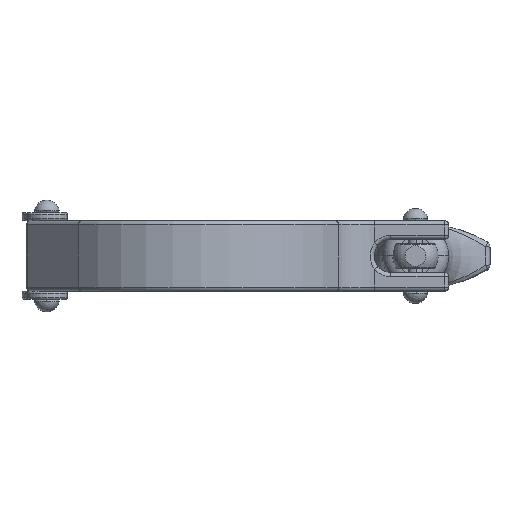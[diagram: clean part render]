
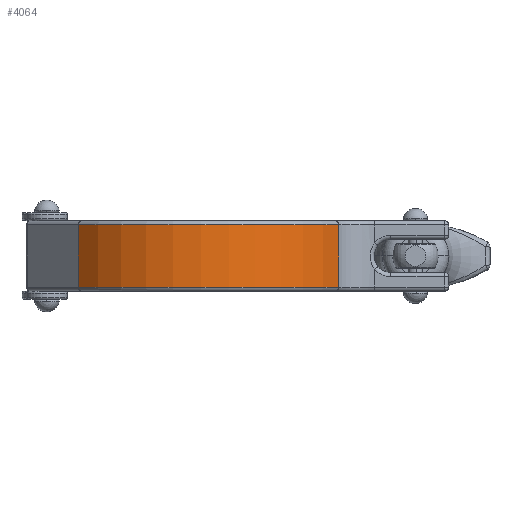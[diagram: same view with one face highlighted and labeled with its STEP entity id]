
A CAD part, front view. The second image highlights one B-rep face of the part: STEP entity #4064.
In plain terms, the highlighted cylindrical face has radius 38.5 mm (diameter 77 mm), a partial arc.
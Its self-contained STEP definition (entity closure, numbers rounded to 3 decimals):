
#302 = CIRCLE ( 'NONE', #6578, 38.5 ) ;
#452 = ORIENTED_EDGE ( 'NONE', *, *, #4575, .T. ) ;
#585 = ORIENTED_EDGE ( 'NONE', *, *, #1857, .F. ) ;
#1857 = EDGE_CURVE ( 'NONE', #4518, #3589, #2033, .T. ) ;
#2033 = LINE ( 'NONE', #3226, #2353 ) ;
#2124 = DIRECTION ( 'NONE',  ( 1., 0., 0. ) ) ;
#2353 = VECTOR ( 'NONE', #9262, 1000. ) ;
#2360 = CARTESIAN_POINT ( 'NONE',  ( -29.384, 17.624, -7.5 ) ) ;
#2423 = DIRECTION ( 'NONE',  ( 0., 0., -1. ) ) ;
#2580 = AXIS2_PLACEMENT_3D ( 'NONE', #3128, #5180, #2124 ) ;
#3128 = CARTESIAN_POINT ( 'NONE',  ( 0., 42.5, 7.5 ) ) ;
#3226 = CARTESIAN_POINT ( 'NONE',  ( 33.456, 23.448, 8.5 ) ) ;
#3355 = LINE ( 'NONE', #7310, #4755 ) ;
#3426 = CARTESIAN_POINT ( 'NONE',  ( 33.456, 23.448, -7.5 ) ) ;
#3589 = VERTEX_POINT ( 'NONE', #3426 ) ;
#4064 = ADVANCED_FACE ( 'NONE', ( #4686 ), #12303, .T. ) ;
#4492 = VERTEX_POINT ( 'NONE', #5196 ) ;
#4518 = VERTEX_POINT ( 'NONE', #8364 ) ;
#4575 = EDGE_CURVE ( 'NONE', #10218, #3589, #302, .T. ) ;
#4686 = FACE_OUTER_BOUND ( 'NONE', #9374, .T. ) ;
#4755 = VECTOR ( 'NONE', #2423, 1000. ) ;
#5180 = DIRECTION ( 'NONE',  ( 0., 0., -1. ) ) ;
#5196 = CARTESIAN_POINT ( 'NONE',  ( -29.384, 17.624, 7.5 ) ) ;
#5366 = DIRECTION ( 'NONE',  ( 1., 0., 0. ) ) ;
#6578 = AXIS2_PLACEMENT_3D ( 'NONE', #10310, #11312, #5366 ) ;
#6858 = EDGE_CURVE ( 'NONE', #4518, #4492, #10246, .T. ) ;
#7310 = CARTESIAN_POINT ( 'NONE',  ( -29.384, 17.624, 8.5 ) ) ;
#7674 = DIRECTION ( 'NONE',  ( 0., 0., -1. ) ) ;
#8364 = CARTESIAN_POINT ( 'NONE',  ( 33.456, 23.448, 7.5 ) ) ;
#8839 = ORIENTED_EDGE ( 'NONE', *, *, #9192, .T. ) ;
#9192 = EDGE_CURVE ( 'NONE', #4492, #10218, #3355, .T. ) ;
#9262 = DIRECTION ( 'NONE',  ( 0., 0., -1. ) ) ;
#9374 = EDGE_LOOP ( 'NONE', ( #585, #12152, #8839, #452 ) ) ;
#10218 = VERTEX_POINT ( 'NONE', #2360 ) ;
#10246 = CIRCLE ( 'NONE', #2580, 38.5 ) ;
#10310 = CARTESIAN_POINT ( 'NONE',  ( 0., 42.5, -7.5 ) ) ;
#10539 = CARTESIAN_POINT ( 'NONE',  ( 0., 42.5, 8.5 ) ) ;
#11148 = AXIS2_PLACEMENT_3D ( 'NONE', #10539, #7674, #12561 ) ;
#11312 = DIRECTION ( 'NONE',  ( 0., 0., 1. ) ) ;
#12152 = ORIENTED_EDGE ( 'NONE', *, *, #6858, .T. ) ;
#12303 = CYLINDRICAL_SURFACE ( 'NONE', #11148, 38.5 ) ;
#12561 = DIRECTION ( 'NONE',  ( 1., 0., 0. ) ) ;
